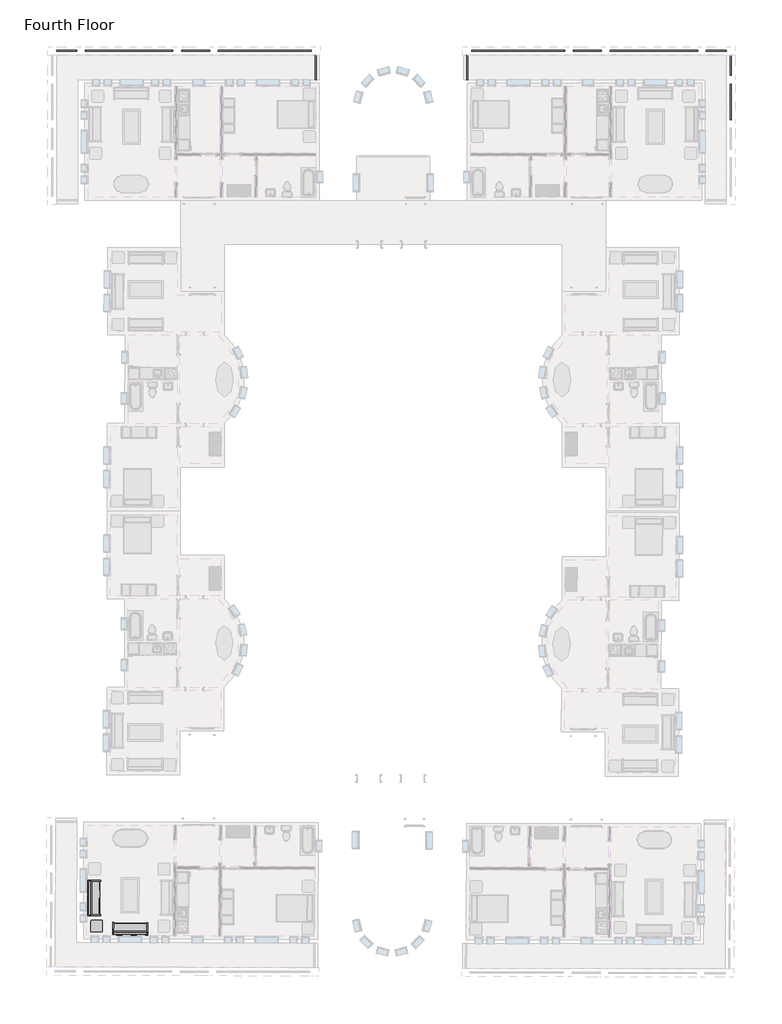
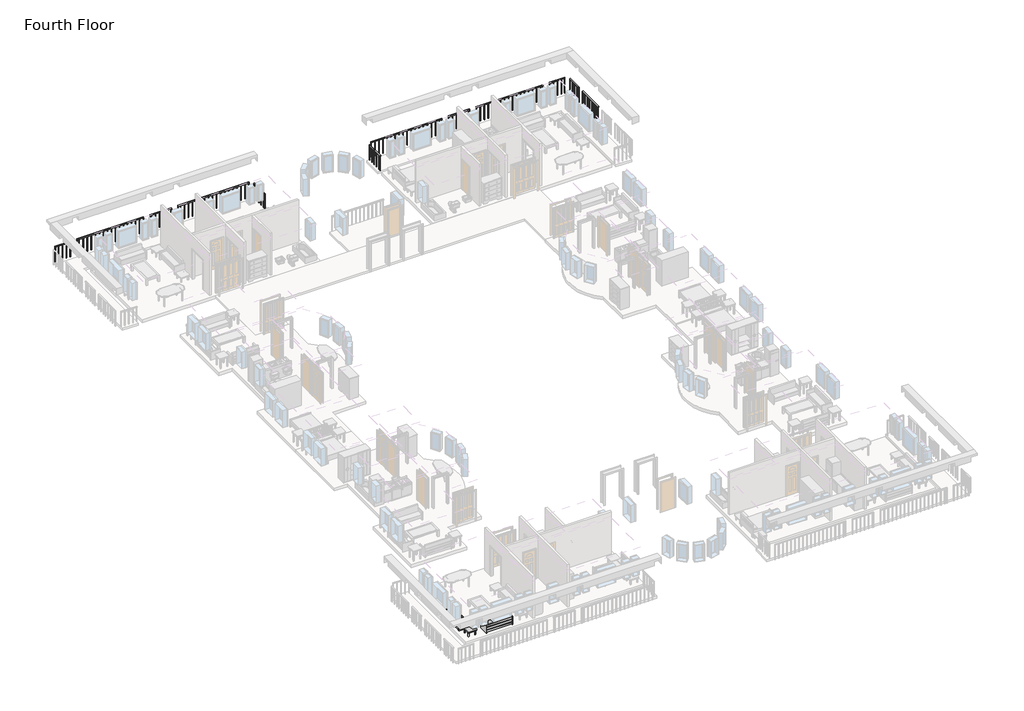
# One storey, part 6 of 8: 12 railings, 3 furniture elements.
"""IFC4 building model written with IfcOpenShell, lengths in millimetres."""

from ifc_helpers import new_model, si_unit, frame, origin, place, context, project, spatial, polyline, outline, extrude, transform, mapped, element, save
from components import m_sofa_1830mm_58d08fc1, m_table_end_cb6ea12e

model = new_model("IFC4")

# Units and contexts
model_context = context("Model", 3, world=origin())
ifc_project = project(units=[si_unit("LENGTHUNIT", "METRE", prefix="MILLI")], contexts=[model_context])

# Site, building, storey
site = spatial("IfcSite", under=ifc_project)
building = spatial("IfcBuilding", under=site)
storey = spatial("IfcBuildingStorey", under=building, Name="Fourth Floor", Elevation=9144.0)

# Furniture
placement = place(None, origin())
m_sofa_1830mm_shape = m_sofa_1830mm_58d08fc1(model_context)
element("IfcFurniture", 1, ObjectType="M_Sofa : 1830mm", at=placement, inside=storey, context=model_context, shape_type="MappedRepresentation", body=[
    mapped(m_sofa_1830mm_shape, transform((-32562.8997947, -41230.7335351, 9144.0), x_axis=(-0.9999958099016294, 0.0028948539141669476, 0.0), y_axis=(-0.0028948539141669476, -0.9999958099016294, 0.0), z_axis=(0.0, 0.0, 1.0))),
])
element("IfcFurniture", 2, ObjectType="M_Sofa : 1830mm", at=placement, inside=storey, context=model_context, shape_type="MappedRepresentation", body=[
    mapped(m_sofa_1830mm_shape, transform((-34355.4280294, -39842.8427064, 9144.0), x_axis=(0.0028948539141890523, 0.9999958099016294, 0.0), y_axis=(-0.9999958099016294, 0.0028948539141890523, 0.0), z_axis=(0.0, 0.0, 1.0))),
])
m_table_end_shape = m_table_end_cb6ea12e(model_context)
element("IfcFurniture", 3, ObjectType="M_Table-End : 0610 x 0160mm altered height", at=placement, inside=storey, context=model_context, shape_type="MappedRepresentation", body=[
    mapped(m_table_end_shape, transform((-34069.0925084, -41075.1267736, 9144.0), x_axis=(-0.9999958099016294, 0.0028948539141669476, 0.0), y_axis=(-0.0028948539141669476, -0.9999958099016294, 0.0), z_axis=(0.0, 0.0, 1.0))),
])

# Railings
element("IfcRailing", 4, ObjectType="1100mm", at=placement, inside=storey, context=model_context, shape_type="SweptSolid", body=[
    extrude(outline(polyline([(-14885.3416203, 4231.1188386), (-14885.3416203, 4281.1188386), (-10043.3416203, 4281.1188386), (-10043.3416203, 4231.1188386), (-14885.3416203, 4231.1188386)])), frame((0.0, 0.0, 10194.0), z_axis=(0.0, 0.0, 1.0), x_axis=(1.0, 0.0, 0.0)), (0.0, 0.0, 1.0), 50.0),
    extrude(outline(polyline([(-10222.8416203, 4243.6188386), (-10222.8416203, 4268.6188386), (-10197.8416203, 4268.6188386), (-10197.8416203, 4243.6188386), (-10222.8416203, 4243.6188386)])), frame((0.0, 0.0, 9144.0), z_axis=(0.0, 0.0, 1.0), x_axis=(1.0, 0.0, 0.0)), (0.0, 0.0, 1.0), 1050.0),
    extrude(outline(polyline([(-10497.8416203, 4243.6188386), (-10497.8416203, 4268.6188386), (-10472.8416203, 4268.6188386), (-10472.8416203, 4243.6188386), (-10497.8416203, 4243.6188386)])), frame((0.0, 0.0, 9144.0), z_axis=(0.0, 0.0, 1.0), x_axis=(1.0, 0.0, 0.0)), (0.0, 0.0, 1.0), 1050.0),
    extrude(outline(polyline([(-10772.8416203, 4243.6188386), (-10772.8416203, 4268.6188386), (-10747.8416203, 4268.6188386), (-10747.8416203, 4243.6188386), (-10772.8416203, 4243.6188386)])), frame((0.0, 0.0, 9144.0), z_axis=(0.0, 0.0, 1.0), x_axis=(1.0, 0.0, 0.0)), (0.0, 0.0, 1.0), 1050.0),
    extrude(outline(polyline([(-11047.8416203, 4243.6188386), (-11047.8416203, 4268.6188386), (-11022.8416203, 4268.6188386), (-11022.8416203, 4243.6188386), (-11047.8416203, 4243.6188386)])), frame((0.0, 0.0, 9144.0), z_axis=(0.0, 0.0, 1.0), x_axis=(1.0, 0.0, 0.0)), (0.0, 0.0, 1.0), 1050.0),
    extrude(outline(polyline([(-11322.8416203, 4243.6188386), (-11322.8416203, 4268.6188386), (-11297.8416203, 4268.6188386), (-11297.8416203, 4243.6188386), (-11322.8416203, 4243.6188386)])), frame((0.0, 0.0, 9144.0), z_axis=(0.0, 0.0, 1.0), x_axis=(1.0, 0.0, 0.0)), (0.0, 0.0, 1.0), 1050.0),
    extrude(outline(polyline([(-11597.8416203, 4243.6188386), (-11597.8416203, 4268.6188386), (-11572.8416203, 4268.6188386), (-11572.8416203, 4243.6188386), (-11597.8416203, 4243.6188386)])), frame((0.0, 0.0, 9144.0), z_axis=(0.0, 0.0, 1.0), x_axis=(1.0, 0.0, 0.0)), (0.0, 0.0, 1.0), 1050.0),
    extrude(outline(polyline([(-11872.8416203, 4243.6188386), (-11872.8416203, 4268.6188386), (-11847.8416203, 4268.6188386), (-11847.8416203, 4243.6188386), (-11872.8416203, 4243.6188386)])), frame((0.0, 0.0, 9144.0), z_axis=(0.0, 0.0, 1.0), x_axis=(1.0, 0.0, 0.0)), (0.0, 0.0, 1.0), 1050.0),
    extrude(outline(polyline([(-12147.8416203, 4243.6188386), (-12147.8416203, 4268.6188386), (-12122.8416203, 4268.6188386), (-12122.8416203, 4243.6188386), (-12147.8416203, 4243.6188386)])), frame((0.0, 0.0, 9144.0), z_axis=(0.0, 0.0, 1.0), x_axis=(1.0, 0.0, 0.0)), (0.0, 0.0, 1.0), 1050.0),
    extrude(outline(polyline([(-12422.8416203, 4243.6188386), (-12422.8416203, 4268.6188386), (-12397.8416203, 4268.6188386), (-12397.8416203, 4243.6188386), (-12422.8416203, 4243.6188386)])), frame((0.0, 0.0, 9144.0), z_axis=(0.0, 0.0, 1.0), x_axis=(1.0, 0.0, 0.0)), (0.0, 0.0, 1.0), 1050.0),
    extrude(outline(polyline([(-12697.8416203, 4243.6188386), (-12697.8416203, 4268.6188386), (-12672.8416203, 4268.6188386), (-12672.8416203, 4243.6188386), (-12697.8416203, 4243.6188386)])), frame((0.0, 0.0, 9144.0), z_axis=(0.0, 0.0, 1.0), x_axis=(1.0, 0.0, 0.0)), (0.0, 0.0, 1.0), 1050.0),
    extrude(outline(polyline([(-12972.8416203, 4243.6188386), (-12972.8416203, 4268.6188386), (-12947.8416203, 4268.6188386), (-12947.8416203, 4243.6188386), (-12972.8416203, 4243.6188386)])), frame((0.0, 0.0, 9144.0), z_axis=(0.0, 0.0, 1.0), x_axis=(1.0, 0.0, 0.0)), (0.0, 0.0, 1.0), 1050.0),
    extrude(outline(polyline([(-13247.8416203, 4243.6188386), (-13247.8416203, 4268.6188386), (-13222.8416203, 4268.6188386), (-13222.8416203, 4243.6188386), (-13247.8416203, 4243.6188386)])), frame((0.0, 0.0, 9144.0), z_axis=(0.0, 0.0, 1.0), x_axis=(1.0, 0.0, 0.0)), (0.0, 0.0, 1.0), 1050.0),
    extrude(outline(polyline([(-13522.8416203, 4243.6188386), (-13522.8416203, 4268.6188386), (-13497.8416203, 4268.6188386), (-13497.8416203, 4243.6188386), (-13522.8416203, 4243.6188386)])), frame((0.0, 0.0, 9144.0), z_axis=(0.0, 0.0, 1.0), x_axis=(1.0, 0.0, 0.0)), (0.0, 0.0, 1.0), 1050.0),
    extrude(outline(polyline([(-13797.8416203, 4243.6188386), (-13797.8416203, 4268.6188386), (-13772.8416203, 4268.6188386), (-13772.8416203, 4243.6188386), (-13797.8416203, 4243.6188386)])), frame((0.0, 0.0, 9144.0), z_axis=(0.0, 0.0, 1.0), x_axis=(1.0, 0.0, 0.0)), (0.0, 0.0, 1.0), 1050.0),
    extrude(outline(polyline([(-14072.8416203, 4243.6188386), (-14072.8416203, 4268.6188386), (-14047.8416203, 4268.6188386), (-14047.8416203, 4243.6188386), (-14072.8416203, 4243.6188386)])), frame((0.0, 0.0, 9144.0), z_axis=(0.0, 0.0, 1.0), x_axis=(1.0, 0.0, 0.0)), (0.0, 0.0, 1.0), 1050.0),
    extrude(outline(polyline([(-14347.8416203, 4243.6188386), (-14347.8416203, 4268.6188386), (-14322.8416203, 4268.6188386), (-14322.8416203, 4243.6188386), (-14347.8416203, 4243.6188386)])), frame((0.0, 0.0, 9144.0), z_axis=(0.0, 0.0, 1.0), x_axis=(1.0, 0.0, 0.0)), (0.0, 0.0, 1.0), 1050.0),
    extrude(outline(polyline([(-14622.8416203, 4243.6188386), (-14622.8416203, 4268.6188386), (-14597.8416203, 4268.6188386), (-14597.8416203, 4243.6188386), (-14622.8416203, 4243.6188386)])), frame((0.0, 0.0, 9144.0), z_axis=(0.0, 0.0, 1.0), x_axis=(1.0, 0.0, 0.0)), (0.0, 0.0, 1.0), 1050.0),
    extrude(outline(polyline([(-10068.3416203, 4243.6188386), (-10068.3416203, 4268.6188386), (-10043.3416203, 4268.6188386), (-10043.3416203, 4243.6188386), (-10068.3416203, 4243.6188386)])), frame((0.0, 0.0, 9144.0), z_axis=(0.0, 0.0, 1.0), x_axis=(1.0, 0.0, 0.0)), (0.0, 0.0, 1.0), 1050.0),
    extrude(outline(polyline([(-14885.3416203, 4243.6188386), (-14885.3416203, 4268.6188386), (-14860.3416203, 4268.6188386), (-14860.3416203, 4243.6188386), (-14885.3416203, 4243.6188386)])), frame((0.0, 0.0, 9144.0), z_axis=(0.0, 0.0, 1.0), x_axis=(1.0, 0.0, 0.0)), (0.0, 0.0, 1.0), 1050.0),
])
element("IfcRailing", 5, ObjectType="1100mm", at=placement, inside=storey, context=model_context, shape_type="SweptSolid", body=[
    extrude(outline(polyline([(-9593.3416203, 4231.1188386), (-9593.3416203, 4281.1188386), (-8143.3416203, 4281.1188386), (-8143.3416203, 4231.1188386), (-9593.3416203, 4231.1188386)])), frame((0.0, 0.0, 10194.0), z_axis=(0.0, 0.0, 1.0), x_axis=(1.0, 0.0, 0.0)), (0.0, 0.0, 1.0), 50.0),
    extrude(outline(polyline([(-8230.8416203, 4243.6188386), (-8230.8416203, 4268.6188386), (-8205.8416203, 4268.6188386), (-8205.8416203, 4243.6188386), (-8230.8416203, 4243.6188386)])), frame((0.0, 0.0, 9144.0), z_axis=(0.0, 0.0, 1.0), x_axis=(1.0, 0.0, 0.0)), (0.0, 0.0, 1.0), 1050.0),
    extrude(outline(polyline([(-8505.8416203, 4243.6188386), (-8505.8416203, 4268.6188386), (-8480.8416203, 4268.6188386), (-8480.8416203, 4243.6188386), (-8505.8416203, 4243.6188386)])), frame((0.0, 0.0, 9144.0), z_axis=(0.0, 0.0, 1.0), x_axis=(1.0, 0.0, 0.0)), (0.0, 0.0, 1.0), 1050.0),
    extrude(outline(polyline([(-8780.8416203, 4243.6188386), (-8780.8416203, 4268.6188386), (-8755.8416203, 4268.6188386), (-8755.8416203, 4243.6188386), (-8780.8416203, 4243.6188386)])), frame((0.0, 0.0, 9144.0), z_axis=(0.0, 0.0, 1.0), x_axis=(1.0, 0.0, 0.0)), (0.0, 0.0, 1.0), 1050.0),
    extrude(outline(polyline([(-9055.8416203, 4243.6188386), (-9055.8416203, 4268.6188386), (-9030.8416203, 4268.6188386), (-9030.8416203, 4243.6188386), (-9055.8416203, 4243.6188386)])), frame((0.0, 0.0, 9144.0), z_axis=(0.0, 0.0, 1.0), x_axis=(1.0, 0.0, 0.0)), (0.0, 0.0, 1.0), 1050.0),
    extrude(outline(polyline([(-9330.8416203, 4243.6188386), (-9330.8416203, 4268.6188386), (-9305.8416203, 4268.6188386), (-9305.8416203, 4243.6188386), (-9330.8416203, 4243.6188386)])), frame((0.0, 0.0, 9144.0), z_axis=(0.0, 0.0, 1.0), x_axis=(1.0, 0.0, 0.0)), (0.0, 0.0, 1.0), 1050.0),
    extrude(outline(polyline([(-8168.3416203, 4243.6188386), (-8168.3416203, 4268.6188386), (-8143.3416203, 4268.6188386), (-8143.3416203, 4243.6188386), (-8168.3416203, 4243.6188386)])), frame((0.0, 0.0, 9144.0), z_axis=(0.0, 0.0, 1.0), x_axis=(1.0, 0.0, 0.0)), (0.0, 0.0, 1.0), 1050.0),
    extrude(outline(polyline([(-9593.3416203, 4243.6188386), (-9593.3416203, 4268.6188386), (-9568.3416203, 4268.6188386), (-9568.3416203, 4243.6188386), (-9593.3416203, 4243.6188386)])), frame((0.0, 0.0, 9144.0), z_axis=(0.0, 0.0, 1.0), x_axis=(1.0, 0.0, 0.0)), (0.0, 0.0, 1.0), 1050.0),
])
element("IfcRailing", 6, ObjectType="1100mm", at=placement, inside=storey, context=model_context, shape_type="SweptSolid", body=[
    extrude(outline(polyline([(-7693.3416203, 4231.1188386), (-7693.3416203, 4281.1188386), (-3143.3416203, 4281.1188386), (-3143.3416203, 4231.1188386), (-7693.3416203, 4231.1188386)])), frame((0.0, 0.0, 10194.0), z_axis=(0.0, 0.0, 1.0), x_axis=(1.0, 0.0, 0.0)), (0.0, 0.0, 1.0), 50.0),
    extrude(outline(polyline([(-3305.8416203, 4243.6188386), (-3305.8416203, 4268.6188386), (-3280.8416203, 4268.6188386), (-3280.8416203, 4243.6188386), (-3305.8416203, 4243.6188386)])), frame((0.0, 0.0, 9144.0), z_axis=(0.0, 0.0, 1.0), x_axis=(1.0, 0.0, 0.0)), (0.0, 0.0, 1.0), 1050.0),
    extrude(outline(polyline([(-3580.8416203, 4243.6188386), (-3580.8416203, 4268.6188386), (-3555.8416203, 4268.6188386), (-3555.8416203, 4243.6188386), (-3580.8416203, 4243.6188386)])), frame((0.0, 0.0, 9144.0), z_axis=(0.0, 0.0, 1.0), x_axis=(1.0, 0.0, 0.0)), (0.0, 0.0, 1.0), 1050.0),
    extrude(outline(polyline([(-3855.8416203, 4243.6188386), (-3855.8416203, 4268.6188386), (-3830.8416203, 4268.6188386), (-3830.8416203, 4243.6188386), (-3855.8416203, 4243.6188386)])), frame((0.0, 0.0, 9144.0), z_axis=(0.0, 0.0, 1.0), x_axis=(1.0, 0.0, 0.0)), (0.0, 0.0, 1.0), 1050.0),
    extrude(outline(polyline([(-4130.8416203, 4243.6188386), (-4130.8416203, 4268.6188386), (-4105.8416203, 4268.6188386), (-4105.8416203, 4243.6188386), (-4130.8416203, 4243.6188386)])), frame((0.0, 0.0, 9144.0), z_axis=(0.0, 0.0, 1.0), x_axis=(1.0, 0.0, 0.0)), (0.0, 0.0, 1.0), 1050.0),
    extrude(outline(polyline([(-4405.8416203, 4243.6188386), (-4405.8416203, 4268.6188386), (-4380.8416203, 4268.6188386), (-4380.8416203, 4243.6188386), (-4405.8416203, 4243.6188386)])), frame((0.0, 0.0, 9144.0), z_axis=(0.0, 0.0, 1.0), x_axis=(1.0, 0.0, 0.0)), (0.0, 0.0, 1.0), 1050.0),
    extrude(outline(polyline([(-4680.8416203, 4243.6188386), (-4680.8416203, 4268.6188386), (-4655.8416203, 4268.6188386), (-4655.8416203, 4243.6188386), (-4680.8416203, 4243.6188386)])), frame((0.0, 0.0, 9144.0), z_axis=(0.0, 0.0, 1.0), x_axis=(1.0, 0.0, 0.0)), (0.0, 0.0, 1.0), 1050.0),
    extrude(outline(polyline([(-4955.8416203, 4243.6188386), (-4955.8416203, 4268.6188386), (-4930.8416203, 4268.6188386), (-4930.8416203, 4243.6188386), (-4955.8416203, 4243.6188386)])), frame((0.0, 0.0, 9144.0), z_axis=(0.0, 0.0, 1.0), x_axis=(1.0, 0.0, 0.0)), (0.0, 0.0, 1.0), 1050.0),
    extrude(outline(polyline([(-5230.8416203, 4243.6188386), (-5230.8416203, 4268.6188386), (-5205.8416203, 4268.6188386), (-5205.8416203, 4243.6188386), (-5230.8416203, 4243.6188386)])), frame((0.0, 0.0, 9144.0), z_axis=(0.0, 0.0, 1.0), x_axis=(1.0, 0.0, 0.0)), (0.0, 0.0, 1.0), 1050.0),
    extrude(outline(polyline([(-5505.8416203, 4243.6188386), (-5505.8416203, 4268.6188386), (-5480.8416203, 4268.6188386), (-5480.8416203, 4243.6188386), (-5505.8416203, 4243.6188386)])), frame((0.0, 0.0, 9144.0), z_axis=(0.0, 0.0, 1.0), x_axis=(1.0, 0.0, 0.0)), (0.0, 0.0, 1.0), 1050.0),
    extrude(outline(polyline([(-5780.8416203, 4243.6188386), (-5780.8416203, 4268.6188386), (-5755.8416203, 4268.6188386), (-5755.8416203, 4243.6188386), (-5780.8416203, 4243.6188386)])), frame((0.0, 0.0, 9144.0), z_axis=(0.0, 0.0, 1.0), x_axis=(1.0, 0.0, 0.0)), (0.0, 0.0, 1.0), 1050.0),
    extrude(outline(polyline([(-6055.8416203, 4243.6188386), (-6055.8416203, 4268.6188386), (-6030.8416203, 4268.6188386), (-6030.8416203, 4243.6188386), (-6055.8416203, 4243.6188386)])), frame((0.0, 0.0, 9144.0), z_axis=(0.0, 0.0, 1.0), x_axis=(1.0, 0.0, 0.0)), (0.0, 0.0, 1.0), 1050.0),
    extrude(outline(polyline([(-6330.8416203, 4243.6188386), (-6330.8416203, 4268.6188386), (-6305.8416203, 4268.6188386), (-6305.8416203, 4243.6188386), (-6330.8416203, 4243.6188386)])), frame((0.0, 0.0, 9144.0), z_axis=(0.0, 0.0, 1.0), x_axis=(1.0, 0.0, 0.0)), (0.0, 0.0, 1.0), 1050.0),
    extrude(outline(polyline([(-6605.8416203, 4243.6188386), (-6605.8416203, 4268.6188386), (-6580.8416203, 4268.6188386), (-6580.8416203, 4243.6188386), (-6605.8416203, 4243.6188386)])), frame((0.0, 0.0, 9144.0), z_axis=(0.0, 0.0, 1.0), x_axis=(1.0, 0.0, 0.0)), (0.0, 0.0, 1.0), 1050.0),
    extrude(outline(polyline([(-6880.8416203, 4243.6188386), (-6880.8416203, 4268.6188386), (-6855.8416203, 4268.6188386), (-6855.8416203, 4243.6188386), (-6880.8416203, 4243.6188386)])), frame((0.0, 0.0, 9144.0), z_axis=(0.0, 0.0, 1.0), x_axis=(1.0, 0.0, 0.0)), (0.0, 0.0, 1.0), 1050.0),
    extrude(outline(polyline([(-7155.8416203, 4243.6188386), (-7155.8416203, 4268.6188386), (-7130.8416203, 4268.6188386), (-7130.8416203, 4243.6188386), (-7155.8416203, 4243.6188386)])), frame((0.0, 0.0, 9144.0), z_axis=(0.0, 0.0, 1.0), x_axis=(1.0, 0.0, 0.0)), (0.0, 0.0, 1.0), 1050.0),
    extrude(outline(polyline([(-7430.8416203, 4243.6188386), (-7430.8416203, 4268.6188386), (-7405.8416203, 4268.6188386), (-7405.8416203, 4243.6188386), (-7430.8416203, 4243.6188386)])), frame((0.0, 0.0, 9144.0), z_axis=(0.0, 0.0, 1.0), x_axis=(1.0, 0.0, 0.0)), (0.0, 0.0, 1.0), 1050.0),
    extrude(outline(polyline([(-3168.3416203, 4243.6188386), (-3168.3416203, 4268.6188386), (-3143.3416203, 4268.6188386), (-3143.3416203, 4243.6188386), (-3168.3416203, 4243.6188386)])), frame((0.0, 0.0, 9144.0), z_axis=(0.0, 0.0, 1.0), x_axis=(1.0, 0.0, 0.0)), (0.0, 0.0, 1.0), 1050.0),
    extrude(outline(polyline([(-7693.3416203, 4243.6188386), (-7693.3416203, 4268.6188386), (-7668.3416203, 4268.6188386), (-7668.3416203, 4243.6188386), (-7693.3416203, 4243.6188386)])), frame((0.0, 0.0, 9144.0), z_axis=(0.0, 0.0, 1.0), x_axis=(1.0, 0.0, 0.0)), (0.0, 0.0, 1.0), 1050.0),
])
element("IfcRailing", 7, ObjectType="1100mm", at=placement, inside=storey, context=model_context, shape_type="SweptSolid", body=[
    extrude(outline(polyline([(-2693.3416203, 4231.1188386), (-2693.3416203, 4281.1188386), (-1643.3416203, 4281.1188386), (-1643.3416203, 4231.1188386), (-2693.3416203, 4231.1188386)])), frame((0.0, 0.0, 10194.0), z_axis=(0.0, 0.0, 1.0), x_axis=(1.0, 0.0, 0.0)), (0.0, 0.0, 1.0), 50.0),
    extrude(outline(polyline([(-1880.8416203, 4243.6188386), (-1880.8416203, 4268.6188386), (-1855.8416203, 4268.6188386), (-1855.8416203, 4243.6188386), (-1880.8416203, 4243.6188386)])), frame((0.0, 0.0, 9144.0), z_axis=(0.0, 0.0, 1.0), x_axis=(1.0, 0.0, 0.0)), (0.0, 0.0, 1.0), 1050.0),
    extrude(outline(polyline([(-2155.8416203, 4243.6188386), (-2155.8416203, 4268.6188386), (-2130.8416203, 4268.6188386), (-2130.8416203, 4243.6188386), (-2155.8416203, 4243.6188386)])), frame((0.0, 0.0, 9144.0), z_axis=(0.0, 0.0, 1.0), x_axis=(1.0, 0.0, 0.0)), (0.0, 0.0, 1.0), 1050.0),
    extrude(outline(polyline([(-2430.8416203, 4243.6188386), (-2430.8416203, 4268.6188386), (-2405.8416203, 4268.6188386), (-2405.8416203, 4243.6188386), (-2430.8416203, 4243.6188386)])), frame((0.0, 0.0, 9144.0), z_axis=(0.0, 0.0, 1.0), x_axis=(1.0, 0.0, 0.0)), (0.0, 0.0, 1.0), 1050.0),
    extrude(outline(polyline([(-1668.3416203, 4243.6188386), (-1668.3416203, 4268.6188386), (-1643.3416203, 4268.6188386), (-1643.3416203, 4243.6188386), (-1668.3416203, 4243.6188386)])), frame((0.0, 0.0, 9144.0), z_axis=(0.0, 0.0, 1.0), x_axis=(1.0, 0.0, 0.0)), (0.0, 0.0, 1.0), 1050.0),
    extrude(outline(polyline([(-2693.3416203, 4243.6188386), (-2693.3416203, 4268.6188386), (-2668.3416203, 4268.6188386), (-2668.3416203, 4243.6188386), (-2693.3416203, 4243.6188386)])), frame((0.0, 0.0, 9144.0), z_axis=(0.0, 0.0, 1.0), x_axis=(1.0, 0.0, 0.0)), (0.0, 0.0, 1.0), 1050.0),
])
element("IfcRailing", 8, ObjectType="1100mm", at=placement, inside=storey, context=model_context, shape_type="SweptSolid", body=[
    extrude(outline(polyline([(-1443.3416203, 4031.1188386), (-1393.3416203, 4031.1188386), (-1393.3416203, 2981.1188386), (-1443.3416203, 2981.1188386), (-1443.3416203, 4031.1188386)])), frame((0.0, 0.0, 10194.0), z_axis=(0.0, 0.0, 1.0), x_axis=(1.0, 0.0, 0.0)), (0.0, 0.0, 1.0), 50.0),
    extrude(outline(polyline([(-1430.8416203, 3218.6188386), (-1405.8416203, 3218.6188386), (-1405.8416203, 3193.6188386), (-1430.8416203, 3193.6188386), (-1430.8416203, 3218.6188386)])), frame((0.0, 0.0, 9144.0), z_axis=(0.0, 0.0, 1.0), x_axis=(1.0, 0.0, 0.0)), (0.0, 0.0, 1.0), 1050.0),
    extrude(outline(polyline([(-1430.8416203, 3493.6188386), (-1405.8416203, 3493.6188386), (-1405.8416203, 3468.6188386), (-1430.8416203, 3468.6188386), (-1430.8416203, 3493.6188386)])), frame((0.0, 0.0, 9144.0), z_axis=(0.0, 0.0, 1.0), x_axis=(1.0, 0.0, 0.0)), (0.0, 0.0, 1.0), 1050.0),
    extrude(outline(polyline([(-1430.8416203, 3768.6188386), (-1405.8416203, 3768.6188386), (-1405.8416203, 3743.6188386), (-1430.8416203, 3743.6188386), (-1430.8416203, 3768.6188386)])), frame((0.0, 0.0, 9144.0), z_axis=(0.0, 0.0, 1.0), x_axis=(1.0, 0.0, 0.0)), (0.0, 0.0, 1.0), 1050.0),
    extrude(outline(polyline([(-1430.8416203, 3006.1188386), (-1405.8416203, 3006.1188386), (-1405.8416203, 2981.1188386), (-1430.8416203, 2981.1188386), (-1430.8416203, 3006.1188386)])), frame((0.0, 0.0, 9144.0), z_axis=(0.0, 0.0, 1.0), x_axis=(1.0, 0.0, 0.0)), (0.0, 0.0, 1.0), 1050.0),
    extrude(outline(polyline([(-1430.8416203, 4031.1188386), (-1405.8416203, 4031.1188386), (-1405.8416203, 4006.1188386), (-1430.8416203, 4006.1188386), (-1430.8416203, 4031.1188386)])), frame((0.0, 0.0, 9144.0), z_axis=(0.0, 0.0, 1.0), x_axis=(1.0, 0.0, 0.0)), (0.0, 0.0, 1.0), 1050.0),
])
element("IfcRailing", 9, ObjectType="1100mm", at=placement, inside=storey, context=model_context, shape_type="SweptSolid", body=[
    extrude(outline(polyline([(-1443.3416203, 2531.1188386), (-1393.3416203, 2531.1188386), (-1393.3416203, 681.1188386), (-1443.3416203, 681.1188386), (-1443.3416203, 2531.1188386)])), frame((0.0, 0.0, 10194.0), z_axis=(0.0, 0.0, 1.0), x_axis=(1.0, 0.0, 0.0)), (0.0, 0.0, 1.0), 50.0),
    extrude(outline(polyline([(-1430.8416203, 893.6188386), (-1405.8416203, 893.6188386), (-1405.8416203, 868.6188386), (-1430.8416203, 868.6188386), (-1430.8416203, 893.6188386)])), frame((0.0, 0.0, 9144.0), z_axis=(0.0, 0.0, 1.0), x_axis=(1.0, 0.0, 0.0)), (0.0, 0.0, 1.0), 1050.0),
    extrude(outline(polyline([(-1430.8416203, 1168.6188386), (-1405.8416203, 1168.6188386), (-1405.8416203, 1143.6188386), (-1430.8416203, 1143.6188386), (-1430.8416203, 1168.6188386)])), frame((0.0, 0.0, 9144.0), z_axis=(0.0, 0.0, 1.0), x_axis=(1.0, 0.0, 0.0)), (0.0, 0.0, 1.0), 1050.0),
    extrude(outline(polyline([(-1430.8416203, 1443.6188386), (-1405.8416203, 1443.6188386), (-1405.8416203, 1418.6188386), (-1430.8416203, 1418.6188386), (-1430.8416203, 1443.6188386)])), frame((0.0, 0.0, 9144.0), z_axis=(0.0, 0.0, 1.0), x_axis=(1.0, 0.0, 0.0)), (0.0, 0.0, 1.0), 1050.0),
    extrude(outline(polyline([(-1430.8416203, 1718.6188386), (-1405.8416203, 1718.6188386), (-1405.8416203, 1693.6188386), (-1430.8416203, 1693.6188386), (-1430.8416203, 1718.6188386)])), frame((0.0, 0.0, 9144.0), z_axis=(0.0, 0.0, 1.0), x_axis=(1.0, 0.0, 0.0)), (0.0, 0.0, 1.0), 1050.0),
    extrude(outline(polyline([(-1430.8416203, 1993.6188386), (-1405.8416203, 1993.6188386), (-1405.8416203, 1968.6188386), (-1430.8416203, 1968.6188386), (-1430.8416203, 1993.6188386)])), frame((0.0, 0.0, 9144.0), z_axis=(0.0, 0.0, 1.0), x_axis=(1.0, 0.0, 0.0)), (0.0, 0.0, 1.0), 1050.0),
    extrude(outline(polyline([(-1430.8416203, 2268.6188386), (-1405.8416203, 2268.6188386), (-1405.8416203, 2243.6188386), (-1430.8416203, 2243.6188386), (-1430.8416203, 2268.6188386)])), frame((0.0, 0.0, 9144.0), z_axis=(0.0, 0.0, 1.0), x_axis=(1.0, 0.0, 0.0)), (0.0, 0.0, 1.0), 1050.0),
    extrude(outline(polyline([(-1430.8416203, 706.1188386), (-1405.8416203, 706.1188386), (-1405.8416203, 681.1188386), (-1430.8416203, 681.1188386), (-1430.8416203, 706.1188386)])), frame((0.0, 0.0, 9144.0), z_axis=(0.0, 0.0, 1.0), x_axis=(1.0, 0.0, 0.0)), (0.0, 0.0, 1.0), 1050.0),
    extrude(outline(polyline([(-1430.8416203, 2531.1188386), (-1405.8416203, 2531.1188386), (-1405.8416203, 2506.1188386), (-1430.8416203, 2506.1188386), (-1430.8416203, 2531.1188386)])), frame((0.0, 0.0, 9144.0), z_axis=(0.0, 0.0, 1.0), x_axis=(1.0, 0.0, 0.0)), (0.0, 0.0, 1.0), 1050.0),
])
element("IfcRailing", 10, ObjectType="1100mm", at=placement, inside=storey, context=model_context, shape_type="SweptSolid", body=[
    extrude(outline(polyline([(-15135.3416203, 4031.1188386), (-15085.3416203, 4031.1188386), (-15085.3416203, 2756.1188386), (-15135.3416203, 2756.1188386), (-15135.3416203, 4031.1188386)])), frame((0.0, 0.0, 10194.0), z_axis=(0.0, 0.0, 1.0), x_axis=(1.0, 0.0, 0.0)), (0.0, 0.0, 1.0), 50.0),
    extrude(outline(polyline([(-15122.8416203, 2943.6188386), (-15097.8416203, 2943.6188386), (-15097.8416203, 2918.6188386), (-15122.8416203, 2918.6188386), (-15122.8416203, 2943.6188386)])), frame((0.0, 0.0, 9144.0), z_axis=(0.0, 0.0, 1.0), x_axis=(1.0, 0.0, 0.0)), (0.0, 0.0, 1.0), 1050.0),
    extrude(outline(polyline([(-15122.8416203, 3218.6188386), (-15097.8416203, 3218.6188386), (-15097.8416203, 3193.6188386), (-15122.8416203, 3193.6188386), (-15122.8416203, 3218.6188386)])), frame((0.0, 0.0, 9144.0), z_axis=(0.0, 0.0, 1.0), x_axis=(1.0, 0.0, 0.0)), (0.0, 0.0, 1.0), 1050.0),
    extrude(outline(polyline([(-15122.8416203, 3493.6188386), (-15097.8416203, 3493.6188386), (-15097.8416203, 3468.6188386), (-15122.8416203, 3468.6188386), (-15122.8416203, 3493.6188386)])), frame((0.0, 0.0, 9144.0), z_axis=(0.0, 0.0, 1.0), x_axis=(1.0, 0.0, 0.0)), (0.0, 0.0, 1.0), 1050.0),
    extrude(outline(polyline([(-15122.8416203, 3768.6188386), (-15097.8416203, 3768.6188386), (-15097.8416203, 3743.6188386), (-15122.8416203, 3743.6188386), (-15122.8416203, 3768.6188386)])), frame((0.0, 0.0, 9144.0), z_axis=(0.0, 0.0, 1.0), x_axis=(1.0, 0.0, 0.0)), (0.0, 0.0, 1.0), 1050.0),
    extrude(outline(polyline([(-15122.8416203, 2781.1188386), (-15097.8416203, 2781.1188386), (-15097.8416203, 2756.1188386), (-15122.8416203, 2756.1188386), (-15122.8416203, 2781.1188386)])), frame((0.0, 0.0, 9144.0), z_axis=(0.0, 0.0, 1.0), x_axis=(1.0, 0.0, 0.0)), (0.0, 0.0, 1.0), 1050.0),
    extrude(outline(polyline([(-15122.8416203, 4031.1188386), (-15097.8416203, 4031.1188386), (-15097.8416203, 4006.1188386), (-15122.8416203, 4006.1188386), (-15122.8416203, 4031.1188386)])), frame((0.0, 0.0, 9144.0), z_axis=(0.0, 0.0, 1.0), x_axis=(1.0, 0.0, 0.0)), (0.0, 0.0, 1.0), 1050.0),
])
element("IfcRailing", 11, ObjectType="1100mm", at=placement, inside=storey, context=model_context, shape_type="SweptSolid", body=[
    extrude(outline(polyline([(-23216.8416203, 4281.1188386), (-23216.8416203, 4231.1188386), (-28058.8416203, 4231.1188386), (-28058.8416203, 4281.1188386), (-23216.8416203, 4281.1188386)])), frame((0.0, 0.0, 10194.0), z_axis=(0.0, 0.0, 1.0), x_axis=(1.0, 0.0, 0.0)), (0.0, 0.0, 1.0), 50.0),
    extrude(outline(polyline([(-27879.3416203, 4243.6188386), (-27904.3416203, 4243.6188386), (-27904.3416203, 4268.6188386), (-27879.3416203, 4268.6188386), (-27879.3416203, 4243.6188386)])), frame((0.0, 0.0, 9144.0), z_axis=(0.0, 0.0, 1.0), x_axis=(1.0, 0.0, 0.0)), (0.0, 0.0, 1.0), 1050.0),
    extrude(outline(polyline([(-27604.3416203, 4243.6188386), (-27629.3416203, 4243.6188386), (-27629.3416203, 4268.6188386), (-27604.3416203, 4268.6188386), (-27604.3416203, 4243.6188386)])), frame((0.0, 0.0, 9144.0), z_axis=(0.0, 0.0, 1.0), x_axis=(1.0, 0.0, 0.0)), (0.0, 0.0, 1.0), 1050.0),
    extrude(outline(polyline([(-27329.3416203, 4243.6188386), (-27354.3416203, 4243.6188386), (-27354.3416203, 4268.6188386), (-27329.3416203, 4268.6188386), (-27329.3416203, 4243.6188386)])), frame((0.0, 0.0, 9144.0), z_axis=(0.0, 0.0, 1.0), x_axis=(1.0, 0.0, 0.0)), (0.0, 0.0, 1.0), 1050.0),
    extrude(outline(polyline([(-27054.3416203, 4243.6188386), (-27079.3416203, 4243.6188386), (-27079.3416203, 4268.6188386), (-27054.3416203, 4268.6188386), (-27054.3416203, 4243.6188386)])), frame((0.0, 0.0, 9144.0), z_axis=(0.0, 0.0, 1.0), x_axis=(1.0, 0.0, 0.0)), (0.0, 0.0, 1.0), 1050.0),
    extrude(outline(polyline([(-26779.3416203, 4243.6188386), (-26804.3416203, 4243.6188386), (-26804.3416203, 4268.6188386), (-26779.3416203, 4268.6188386), (-26779.3416203, 4243.6188386)])), frame((0.0, 0.0, 9144.0), z_axis=(0.0, 0.0, 1.0), x_axis=(1.0, 0.0, 0.0)), (0.0, 0.0, 1.0), 1050.0),
    extrude(outline(polyline([(-26504.3416203, 4243.6188386), (-26529.3416203, 4243.6188386), (-26529.3416203, 4268.6188386), (-26504.3416203, 4268.6188386), (-26504.3416203, 4243.6188386)])), frame((0.0, 0.0, 9144.0), z_axis=(0.0, 0.0, 1.0), x_axis=(1.0, 0.0, 0.0)), (0.0, 0.0, 1.0), 1050.0),
    extrude(outline(polyline([(-26229.3416203, 4243.6188386), (-26254.3416203, 4243.6188386), (-26254.3416203, 4268.6188386), (-26229.3416203, 4268.6188386), (-26229.3416203, 4243.6188386)])), frame((0.0, 0.0, 9144.0), z_axis=(0.0, 0.0, 1.0), x_axis=(1.0, 0.0, 0.0)), (0.0, 0.0, 1.0), 1050.0),
    extrude(outline(polyline([(-25954.3416203, 4243.6188386), (-25979.3416203, 4243.6188386), (-25979.3416203, 4268.6188386), (-25954.3416203, 4268.6188386), (-25954.3416203, 4243.6188386)])), frame((0.0, 0.0, 9144.0), z_axis=(0.0, 0.0, 1.0), x_axis=(1.0, 0.0, 0.0)), (0.0, 0.0, 1.0), 1050.0),
    extrude(outline(polyline([(-25679.3416203, 4243.6188386), (-25704.3416203, 4243.6188386), (-25704.3416203, 4268.6188386), (-25679.3416203, 4268.6188386), (-25679.3416203, 4243.6188386)])), frame((0.0, 0.0, 9144.0), z_axis=(0.0, 0.0, 1.0), x_axis=(1.0, 0.0, 0.0)), (0.0, 0.0, 1.0), 1050.0),
    extrude(outline(polyline([(-25404.3416203, 4243.6188386), (-25429.3416203, 4243.6188386), (-25429.3416203, 4268.6188386), (-25404.3416203, 4268.6188386), (-25404.3416203, 4243.6188386)])), frame((0.0, 0.0, 9144.0), z_axis=(0.0, 0.0, 1.0), x_axis=(1.0, 0.0, 0.0)), (0.0, 0.0, 1.0), 1050.0),
    extrude(outline(polyline([(-25129.3416203, 4243.6188386), (-25154.3416203, 4243.6188386), (-25154.3416203, 4268.6188386), (-25129.3416203, 4268.6188386), (-25129.3416203, 4243.6188386)])), frame((0.0, 0.0, 9144.0), z_axis=(0.0, 0.0, 1.0), x_axis=(1.0, 0.0, 0.0)), (0.0, 0.0, 1.0), 1050.0),
    extrude(outline(polyline([(-24854.3416203, 4243.6188386), (-24879.3416203, 4243.6188386), (-24879.3416203, 4268.6188386), (-24854.3416203, 4268.6188386), (-24854.3416203, 4243.6188386)])), frame((0.0, 0.0, 9144.0), z_axis=(0.0, 0.0, 1.0), x_axis=(1.0, 0.0, 0.0)), (0.0, 0.0, 1.0), 1050.0),
    extrude(outline(polyline([(-24579.3416203, 4243.6188386), (-24604.3416203, 4243.6188386), (-24604.3416203, 4268.6188386), (-24579.3416203, 4268.6188386), (-24579.3416203, 4243.6188386)])), frame((0.0, 0.0, 9144.0), z_axis=(0.0, 0.0, 1.0), x_axis=(1.0, 0.0, 0.0)), (0.0, 0.0, 1.0), 1050.0),
    extrude(outline(polyline([(-24304.3416203, 4243.6188386), (-24329.3416203, 4243.6188386), (-24329.3416203, 4268.6188386), (-24304.3416203, 4268.6188386), (-24304.3416203, 4243.6188386)])), frame((0.0, 0.0, 9144.0), z_axis=(0.0, 0.0, 1.0), x_axis=(1.0, 0.0, 0.0)), (0.0, 0.0, 1.0), 1050.0),
    extrude(outline(polyline([(-24029.3416203, 4243.6188386), (-24054.3416203, 4243.6188386), (-24054.3416203, 4268.6188386), (-24029.3416203, 4268.6188386), (-24029.3416203, 4243.6188386)])), frame((0.0, 0.0, 9144.0), z_axis=(0.0, 0.0, 1.0), x_axis=(1.0, 0.0, 0.0)), (0.0, 0.0, 1.0), 1050.0),
    extrude(outline(polyline([(-23754.3416203, 4243.6188386), (-23779.3416203, 4243.6188386), (-23779.3416203, 4268.6188386), (-23754.3416203, 4268.6188386), (-23754.3416203, 4243.6188386)])), frame((0.0, 0.0, 9144.0), z_axis=(0.0, 0.0, 1.0), x_axis=(1.0, 0.0, 0.0)), (0.0, 0.0, 1.0), 1050.0),
    extrude(outline(polyline([(-23479.3416203, 4243.6188386), (-23504.3416203, 4243.6188386), (-23504.3416203, 4268.6188386), (-23479.3416203, 4268.6188386), (-23479.3416203, 4243.6188386)])), frame((0.0, 0.0, 9144.0), z_axis=(0.0, 0.0, 1.0), x_axis=(1.0, 0.0, 0.0)), (0.0, 0.0, 1.0), 1050.0),
    extrude(outline(polyline([(-28033.8416203, 4243.6188386), (-28058.8416203, 4243.6188386), (-28058.8416203, 4268.6188386), (-28033.8416203, 4268.6188386), (-28033.8416203, 4243.6188386)])), frame((0.0, 0.0, 9144.0), z_axis=(0.0, 0.0, 1.0), x_axis=(1.0, 0.0, 0.0)), (0.0, 0.0, 1.0), 1050.0),
    extrude(outline(polyline([(-23216.8416203, 4243.6188386), (-23241.8416203, 4243.6188386), (-23241.8416203, 4268.6188386), (-23216.8416203, 4268.6188386), (-23216.8416203, 4243.6188386)])), frame((0.0, 0.0, 9144.0), z_axis=(0.0, 0.0, 1.0), x_axis=(1.0, 0.0, 0.0)), (0.0, 0.0, 1.0), 1050.0),
])
element("IfcRailing", 12, ObjectType="1100mm", at=placement, inside=storey, context=model_context, shape_type="SweptSolid", body=[
    extrude(outline(polyline([(-28508.8416203, 4281.1188386), (-28508.8416203, 4231.1188386), (-29958.8416203, 4231.1188386), (-29958.8416203, 4281.1188386), (-28508.8416203, 4281.1188386)])), frame((0.0, 0.0, 10194.0), z_axis=(0.0, 0.0, 1.0), x_axis=(1.0, 0.0, 0.0)), (0.0, 0.0, 1.0), 50.0),
    extrude(outline(polyline([(-29871.3416203, 4243.6188386), (-29896.3416203, 4243.6188386), (-29896.3416203, 4268.6188386), (-29871.3416203, 4268.6188386), (-29871.3416203, 4243.6188386)])), frame((0.0, 0.0, 9144.0), z_axis=(0.0, 0.0, 1.0), x_axis=(1.0, 0.0, 0.0)), (0.0, 0.0, 1.0), 1050.0),
    extrude(outline(polyline([(-29596.3416203, 4243.6188386), (-29621.3416203, 4243.6188386), (-29621.3416203, 4268.6188386), (-29596.3416203, 4268.6188386), (-29596.3416203, 4243.6188386)])), frame((0.0, 0.0, 9144.0), z_axis=(0.0, 0.0, 1.0), x_axis=(1.0, 0.0, 0.0)), (0.0, 0.0, 1.0), 1050.0),
    extrude(outline(polyline([(-29321.3416203, 4243.6188386), (-29346.3416203, 4243.6188386), (-29346.3416203, 4268.6188386), (-29321.3416203, 4268.6188386), (-29321.3416203, 4243.6188386)])), frame((0.0, 0.0, 9144.0), z_axis=(0.0, 0.0, 1.0), x_axis=(1.0, 0.0, 0.0)), (0.0, 0.0, 1.0), 1050.0),
    extrude(outline(polyline([(-29046.3416203, 4243.6188386), (-29071.3416203, 4243.6188386), (-29071.3416203, 4268.6188386), (-29046.3416203, 4268.6188386), (-29046.3416203, 4243.6188386)])), frame((0.0, 0.0, 9144.0), z_axis=(0.0, 0.0, 1.0), x_axis=(1.0, 0.0, 0.0)), (0.0, 0.0, 1.0), 1050.0),
    extrude(outline(polyline([(-28771.3416203, 4243.6188386), (-28796.3416203, 4243.6188386), (-28796.3416203, 4268.6188386), (-28771.3416203, 4268.6188386), (-28771.3416203, 4243.6188386)])), frame((0.0, 0.0, 9144.0), z_axis=(0.0, 0.0, 1.0), x_axis=(1.0, 0.0, 0.0)), (0.0, 0.0, 1.0), 1050.0),
    extrude(outline(polyline([(-29933.8416203, 4243.6188386), (-29958.8416203, 4243.6188386), (-29958.8416203, 4268.6188386), (-29933.8416203, 4268.6188386), (-29933.8416203, 4243.6188386)])), frame((0.0, 0.0, 9144.0), z_axis=(0.0, 0.0, 1.0), x_axis=(1.0, 0.0, 0.0)), (0.0, 0.0, 1.0), 1050.0),
    extrude(outline(polyline([(-28508.8416203, 4243.6188386), (-28533.8416203, 4243.6188386), (-28533.8416203, 4268.6188386), (-28508.8416203, 4268.6188386), (-28508.8416203, 4243.6188386)])), frame((0.0, 0.0, 9144.0), z_axis=(0.0, 0.0, 1.0), x_axis=(1.0, 0.0, 0.0)), (0.0, 0.0, 1.0), 1050.0),
])
element("IfcRailing", 13, ObjectType="1100mm", at=placement, inside=storey, context=model_context, shape_type="SweptSolid", body=[
    extrude(outline(polyline([(-30408.8416203, 4281.1188386), (-30408.8416203, 4231.1188386), (-34958.8416203, 4231.1188386), (-34958.8416203, 4281.1188386), (-30408.8416203, 4281.1188386)])), frame((0.0, 0.0, 10194.0), z_axis=(0.0, 0.0, 1.0), x_axis=(1.0, 0.0, 0.0)), (0.0, 0.0, 1.0), 50.0),
    extrude(outline(polyline([(-34796.3416203, 4243.6188386), (-34821.3416203, 4243.6188386), (-34821.3416203, 4268.6188386), (-34796.3416203, 4268.6188386), (-34796.3416203, 4243.6188386)])), frame((0.0, 0.0, 9144.0), z_axis=(0.0, 0.0, 1.0), x_axis=(1.0, 0.0, 0.0)), (0.0, 0.0, 1.0), 1050.0),
    extrude(outline(polyline([(-34521.3416203, 4243.6188386), (-34546.3416203, 4243.6188386), (-34546.3416203, 4268.6188386), (-34521.3416203, 4268.6188386), (-34521.3416203, 4243.6188386)])), frame((0.0, 0.0, 9144.0), z_axis=(0.0, 0.0, 1.0), x_axis=(1.0, 0.0, 0.0)), (0.0, 0.0, 1.0), 1050.0),
    extrude(outline(polyline([(-34246.3416203, 4243.6188386), (-34271.3416203, 4243.6188386), (-34271.3416203, 4268.6188386), (-34246.3416203, 4268.6188386), (-34246.3416203, 4243.6188386)])), frame((0.0, 0.0, 9144.0), z_axis=(0.0, 0.0, 1.0), x_axis=(1.0, 0.0, 0.0)), (0.0, 0.0, 1.0), 1050.0),
    extrude(outline(polyline([(-33971.3416203, 4243.6188386), (-33996.3416203, 4243.6188386), (-33996.3416203, 4268.6188386), (-33971.3416203, 4268.6188386), (-33971.3416203, 4243.6188386)])), frame((0.0, 0.0, 9144.0), z_axis=(0.0, 0.0, 1.0), x_axis=(1.0, 0.0, 0.0)), (0.0, 0.0, 1.0), 1050.0),
    extrude(outline(polyline([(-33696.3416203, 4243.6188386), (-33721.3416203, 4243.6188386), (-33721.3416203, 4268.6188386), (-33696.3416203, 4268.6188386), (-33696.3416203, 4243.6188386)])), frame((0.0, 0.0, 9144.0), z_axis=(0.0, 0.0, 1.0), x_axis=(1.0, 0.0, 0.0)), (0.0, 0.0, 1.0), 1050.0),
    extrude(outline(polyline([(-33421.3416203, 4243.6188386), (-33446.3416203, 4243.6188386), (-33446.3416203, 4268.6188386), (-33421.3416203, 4268.6188386), (-33421.3416203, 4243.6188386)])), frame((0.0, 0.0, 9144.0), z_axis=(0.0, 0.0, 1.0), x_axis=(1.0, 0.0, 0.0)), (0.0, 0.0, 1.0), 1050.0),
    extrude(outline(polyline([(-33146.3416203, 4243.6188386), (-33171.3416203, 4243.6188386), (-33171.3416203, 4268.6188386), (-33146.3416203, 4268.6188386), (-33146.3416203, 4243.6188386)])), frame((0.0, 0.0, 9144.0), z_axis=(0.0, 0.0, 1.0), x_axis=(1.0, 0.0, 0.0)), (0.0, 0.0, 1.0), 1050.0),
    extrude(outline(polyline([(-32871.3416203, 4243.6188386), (-32896.3416203, 4243.6188386), (-32896.3416203, 4268.6188386), (-32871.3416203, 4268.6188386), (-32871.3416203, 4243.6188386)])), frame((0.0, 0.0, 9144.0), z_axis=(0.0, 0.0, 1.0), x_axis=(1.0, 0.0, 0.0)), (0.0, 0.0, 1.0), 1050.0),
    extrude(outline(polyline([(-32596.3416203, 4243.6188386), (-32621.3416203, 4243.6188386), (-32621.3416203, 4268.6188386), (-32596.3416203, 4268.6188386), (-32596.3416203, 4243.6188386)])), frame((0.0, 0.0, 9144.0), z_axis=(0.0, 0.0, 1.0), x_axis=(1.0, 0.0, 0.0)), (0.0, 0.0, 1.0), 1050.0),
    extrude(outline(polyline([(-32321.3416203, 4243.6188386), (-32346.3416203, 4243.6188386), (-32346.3416203, 4268.6188386), (-32321.3416203, 4268.6188386), (-32321.3416203, 4243.6188386)])), frame((0.0, 0.0, 9144.0), z_axis=(0.0, 0.0, 1.0), x_axis=(1.0, 0.0, 0.0)), (0.0, 0.0, 1.0), 1050.0),
    extrude(outline(polyline([(-32046.3416203, 4243.6188386), (-32071.3416203, 4243.6188386), (-32071.3416203, 4268.6188386), (-32046.3416203, 4268.6188386), (-32046.3416203, 4243.6188386)])), frame((0.0, 0.0, 9144.0), z_axis=(0.0, 0.0, 1.0), x_axis=(1.0, 0.0, 0.0)), (0.0, 0.0, 1.0), 1050.0),
    extrude(outline(polyline([(-31771.3416203, 4243.6188386), (-31796.3416203, 4243.6188386), (-31796.3416203, 4268.6188386), (-31771.3416203, 4268.6188386), (-31771.3416203, 4243.6188386)])), frame((0.0, 0.0, 9144.0), z_axis=(0.0, 0.0, 1.0), x_axis=(1.0, 0.0, 0.0)), (0.0, 0.0, 1.0), 1050.0),
    extrude(outline(polyline([(-31496.3416203, 4243.6188386), (-31521.3416203, 4243.6188386), (-31521.3416203, 4268.6188386), (-31496.3416203, 4268.6188386), (-31496.3416203, 4243.6188386)])), frame((0.0, 0.0, 9144.0), z_axis=(0.0, 0.0, 1.0), x_axis=(1.0, 0.0, 0.0)), (0.0, 0.0, 1.0), 1050.0),
    extrude(outline(polyline([(-31221.3416203, 4243.6188386), (-31246.3416203, 4243.6188386), (-31246.3416203, 4268.6188386), (-31221.3416203, 4268.6188386), (-31221.3416203, 4243.6188386)])), frame((0.0, 0.0, 9144.0), z_axis=(0.0, 0.0, 1.0), x_axis=(1.0, 0.0, 0.0)), (0.0, 0.0, 1.0), 1050.0),
    extrude(outline(polyline([(-30946.3416203, 4243.6188386), (-30971.3416203, 4243.6188386), (-30971.3416203, 4268.6188386), (-30946.3416203, 4268.6188386), (-30946.3416203, 4243.6188386)])), frame((0.0, 0.0, 9144.0), z_axis=(0.0, 0.0, 1.0), x_axis=(1.0, 0.0, 0.0)), (0.0, 0.0, 1.0), 1050.0),
    extrude(outline(polyline([(-30671.3416203, 4243.6188386), (-30696.3416203, 4243.6188386), (-30696.3416203, 4268.6188386), (-30671.3416203, 4268.6188386), (-30671.3416203, 4243.6188386)])), frame((0.0, 0.0, 9144.0), z_axis=(0.0, 0.0, 1.0), x_axis=(1.0, 0.0, 0.0)), (0.0, 0.0, 1.0), 1050.0),
    extrude(outline(polyline([(-34933.8416203, 4243.6188386), (-34958.8416203, 4243.6188386), (-34958.8416203, 4268.6188386), (-34933.8416203, 4268.6188386), (-34933.8416203, 4243.6188386)])), frame((0.0, 0.0, 9144.0), z_axis=(0.0, 0.0, 1.0), x_axis=(1.0, 0.0, 0.0)), (0.0, 0.0, 1.0), 1050.0),
    extrude(outline(polyline([(-30408.8416203, 4243.6188386), (-30433.8416203, 4243.6188386), (-30433.8416203, 4268.6188386), (-30408.8416203, 4268.6188386), (-30408.8416203, 4243.6188386)])), frame((0.0, 0.0, 9144.0), z_axis=(0.0, 0.0, 1.0), x_axis=(1.0, 0.0, 0.0)), (0.0, 0.0, 1.0), 1050.0),
])
element("IfcRailing", 14, ObjectType="1100mm", at=placement, inside=storey, context=model_context, shape_type="SweptSolid", body=[
    extrude(outline(polyline([(-35408.8416203, 4281.1188386), (-35408.8416203, 4231.1188386), (-36458.8416203, 4231.1188386), (-36458.8416203, 4281.1188386), (-35408.8416203, 4281.1188386)])), frame((0.0, 0.0, 10194.0), z_axis=(0.0, 0.0, 1.0), x_axis=(1.0, 0.0, 0.0)), (0.0, 0.0, 1.0), 50.0),
    extrude(outline(polyline([(-36221.3416203, 4243.6188386), (-36246.3416203, 4243.6188386), (-36246.3416203, 4268.6188386), (-36221.3416203, 4268.6188386), (-36221.3416203, 4243.6188386)])), frame((0.0, 0.0, 9144.0), z_axis=(0.0, 0.0, 1.0), x_axis=(1.0, 0.0, 0.0)), (0.0, 0.0, 1.0), 1050.0),
    extrude(outline(polyline([(-35946.3416203, 4243.6188386), (-35971.3416203, 4243.6188386), (-35971.3416203, 4268.6188386), (-35946.3416203, 4268.6188386), (-35946.3416203, 4243.6188386)])), frame((0.0, 0.0, 9144.0), z_axis=(0.0, 0.0, 1.0), x_axis=(1.0, 0.0, 0.0)), (0.0, 0.0, 1.0), 1050.0),
    extrude(outline(polyline([(-35671.3416203, 4243.6188386), (-35696.3416203, 4243.6188386), (-35696.3416203, 4268.6188386), (-35671.3416203, 4268.6188386), (-35671.3416203, 4243.6188386)])), frame((0.0, 0.0, 9144.0), z_axis=(0.0, 0.0, 1.0), x_axis=(1.0, 0.0, 0.0)), (0.0, 0.0, 1.0), 1050.0),
    extrude(outline(polyline([(-36433.8416203, 4243.6188386), (-36458.8416203, 4243.6188386), (-36458.8416203, 4268.6188386), (-36433.8416203, 4268.6188386), (-36433.8416203, 4243.6188386)])), frame((0.0, 0.0, 9144.0), z_axis=(0.0, 0.0, 1.0), x_axis=(1.0, 0.0, 0.0)), (0.0, 0.0, 1.0), 1050.0),
    extrude(outline(polyline([(-35408.8416203, 4243.6188386), (-35433.8416203, 4243.6188386), (-35433.8416203, 4268.6188386), (-35408.8416203, 4268.6188386), (-35408.8416203, 4243.6188386)])), frame((0.0, 0.0, 9144.0), z_axis=(0.0, 0.0, 1.0), x_axis=(1.0, 0.0, 0.0)), (0.0, 0.0, 1.0), 1050.0),
])
element("IfcRailing", 15, ObjectType="1100mm", at=placement, inside=storey, context=model_context, shape_type="SweptSolid", body=[
    extrude(outline(polyline([(-23016.8416203, 4031.1188386), (-22966.8416203, 4031.1188386), (-22966.8416203, 2756.1188386), (-23016.8416203, 2756.1188386), (-23016.8416203, 4031.1188386)])), frame((0.0, 0.0, 10194.0), z_axis=(0.0, 0.0, 1.0), x_axis=(1.0, 0.0, 0.0)), (0.0, 0.0, 1.0), 50.0),
    extrude(outline(polyline([(-22979.3416203, 2943.6188386), (-22979.3416203, 2918.6188386), (-23004.3416203, 2918.6188386), (-23004.3416203, 2943.6188386), (-22979.3416203, 2943.6188386)])), frame((0.0, 0.0, 9144.0), z_axis=(0.0, 0.0, 1.0), x_axis=(1.0, 0.0, 0.0)), (0.0, 0.0, 1.0), 1050.0),
    extrude(outline(polyline([(-22979.3416203, 3218.6188386), (-22979.3416203, 3193.6188386), (-23004.3416203, 3193.6188386), (-23004.3416203, 3218.6188386), (-22979.3416203, 3218.6188386)])), frame((0.0, 0.0, 9144.0), z_axis=(0.0, 0.0, 1.0), x_axis=(1.0, 0.0, 0.0)), (0.0, 0.0, 1.0), 1050.0),
    extrude(outline(polyline([(-22979.3416203, 3493.6188386), (-22979.3416203, 3468.6188386), (-23004.3416203, 3468.6188386), (-23004.3416203, 3493.6188386), (-22979.3416203, 3493.6188386)])), frame((0.0, 0.0, 9144.0), z_axis=(0.0, 0.0, 1.0), x_axis=(1.0, 0.0, 0.0)), (0.0, 0.0, 1.0), 1050.0),
    extrude(outline(polyline([(-22979.3416203, 3768.6188386), (-22979.3416203, 3743.6188386), (-23004.3416203, 3743.6188386), (-23004.3416203, 3768.6188386), (-22979.3416203, 3768.6188386)])), frame((0.0, 0.0, 9144.0), z_axis=(0.0, 0.0, 1.0), x_axis=(1.0, 0.0, 0.0)), (0.0, 0.0, 1.0), 1050.0),
    extrude(outline(polyline([(-22979.3416203, 2781.1188386), (-22979.3416203, 2756.1188386), (-23004.3416203, 2756.1188386), (-23004.3416203, 2781.1188386), (-22979.3416203, 2781.1188386)])), frame((0.0, 0.0, 9144.0), z_axis=(0.0, 0.0, 1.0), x_axis=(1.0, 0.0, 0.0)), (0.0, 0.0, 1.0), 1050.0),
    extrude(outline(polyline([(-22979.3416203, 4031.1188386), (-22979.3416203, 4006.1188386), (-23004.3416203, 4006.1188386), (-23004.3416203, 4031.1188386), (-22979.3416203, 4031.1188386)])), frame((0.0, 0.0, 9144.0), z_axis=(0.0, 0.0, 1.0), x_axis=(1.0, 0.0, 0.0)), (0.0, 0.0, 1.0), 1050.0),
])

save(model, "model.ifc")
